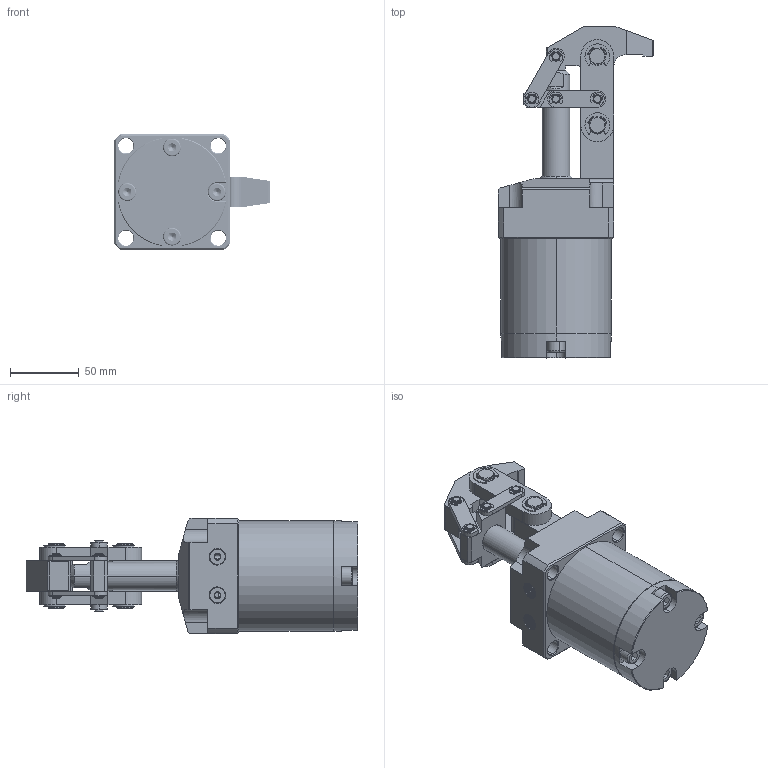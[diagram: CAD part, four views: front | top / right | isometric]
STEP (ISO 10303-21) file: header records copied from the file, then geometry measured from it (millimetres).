
FILE_DESCRIPTION (( 'STEP AP203' ), '1' );
FILE_NAME ('CLF5H-50D油压杠杠杠三维图.STEP', '2013-04-28T07:40:46', ( 'user' ), ( 'Microsoft' ), 'SwSTEP 2.0', 'SolidWorks 2010', '' );
FILE_SCHEMA (( 'CONFIG_CONTROL_DESIGN' ));
Products named in the file (18): 掛极; 活塞杆; 滅鳥猾; o遠; 蟀裝3; 蟀裝2; 蟀裝1; 揤旋; 种粣2; 种粣3; 挡圈1; 挡圈2; CLF5H-50D油压杠杠杠三维图; 騵艦遠; 綴裔; 种粣1; Hexagon socket head cap screws GB_GB_FASTENER_SCREWS_HSHCS M8X25-S; 蟀裝4
Assembly tree (36 placements, depth 2):
  CLF5H-50D油压杠杠杠三维图
    活塞杆
    蟀裝3  x2
    挡圈1  x4
    挡圈2  x8
    Hexagon socket head cap screws GB_GB_FASTENER_SCREWS_HSHCS M8X25-S  x4
    蟀裝2
    綴裔
    o遠
    揤旋
    种粣3  x2
    蟀裝4  x2
    种粣1  x2
    騵艦遠
    蟀裝1  x2
    滅鳥猾
    种粣2  x2
    掛极
Bounding box: 113 x 241 x 84 mm (x, y, z)
Volume: 724212.4 mm3; surface area: 159617.4 mm2
Topology: 36 solids, 36 shells, 2114 faces, 4975 edges, 2984 vertices
Faces by surface type: cylinder 976, cone 653, plane 368, torus 92, bspline 25
Entity records: 46812 total; most frequent: CARTESIAN_POINT 20506, ORIENTED_EDGE 5104, DIRECTION 5065, EDGE_CURVE 2552, AXIS2_PLACEMENT_3D 1989, VERTEX_POINT 1577, EDGE_LOOP 1147, VECTOR 1087
